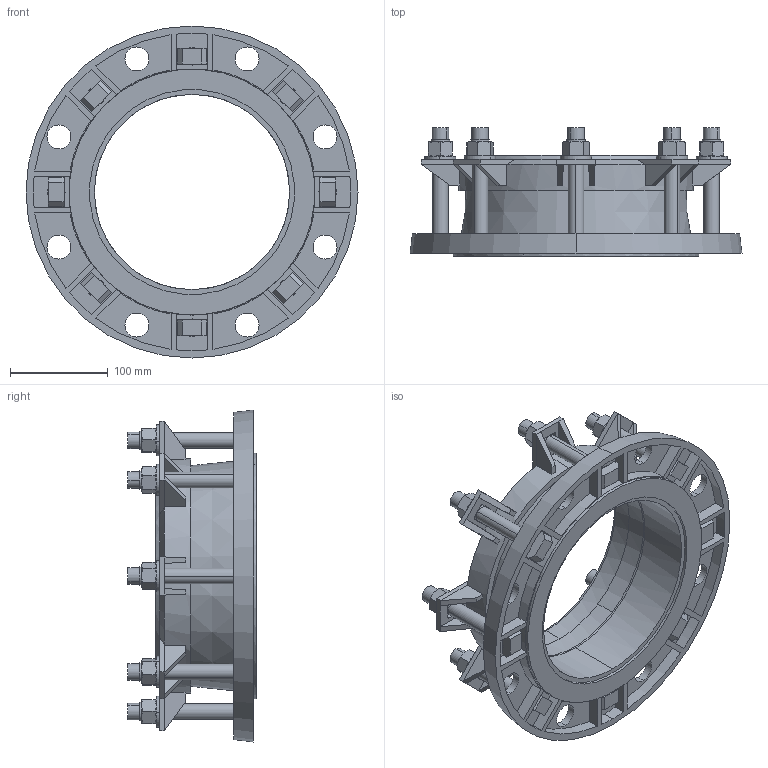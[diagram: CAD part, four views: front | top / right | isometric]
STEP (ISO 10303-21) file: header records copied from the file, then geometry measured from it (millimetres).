
FILE_DESCRIPTION (( 'STEP AP203' ), '1' );
FILE_NAME ('O_623_10_DN200-200mm_X0XXXXX_REV01.step', '2020-04-17T08:56:51', ( '' ), ( '' ), 'SwSTEP 2.0', 'SolidWorks 2019', '' );
FILE_SCHEMA (( 'CONFIG_CONTROL_DESIGN' ));
Length unit declared in the file: millimetre
Products named in the file (1): O_623_10_DN200-200mm_X0XXXXX_REV01
Bounding box: 340 x 131.5 x 340 mm (x, y, z)
Volume: 2101893.1 mm3; surface area: 404461.3 mm2
Topology: 1 solids, 1 shells, 725 faces, 1811 edges, 1121 vertices
Faces by surface type: plane 386, cylinder 212, cone 125, bspline 2
Entity records: 22563 total; most frequent: CARTESIAN_POINT 5318, ORIENTED_EDGE 3622, DIRECTION 3512, EDGE_CURVE 1811, AXIS2_PLACEMENT_3D 1323, VERTEX_POINT 1121, LINE 866, VECTOR 866
